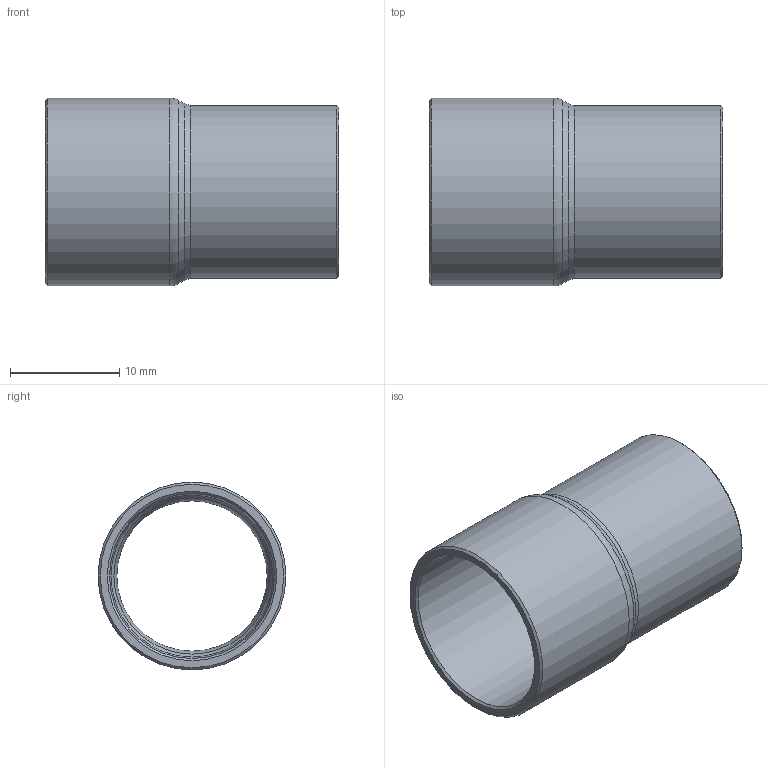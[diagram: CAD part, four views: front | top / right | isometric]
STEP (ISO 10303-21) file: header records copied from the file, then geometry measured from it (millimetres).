
FILE_DESCRIPTION((''),'2;1');
FILE_NAME('G:\SANHA-Ternat\Technik\Management\Bouwmaten + markeringen\z-maattekeningen 3D\29000s\29243IM5815_3d.stp','2017-08-07T11:35:28',('vdvijverd'),(''),'Autodesk Inventor 2009','Autodesk Inventor 2009','');
FILE_SCHEMA(('AUTOMOTIVE_DESIGN { 1 0 10303 214 1 1 1 1 }'));
Length unit declared in the file: millimetre
Products named in the file (1): 29243IM5815_3d
Bounding box: 26.9 x 17.22 x 17.22 mm (x, y, z)
Volume: 1373.7 mm3; surface area: 2702.8 mm2
Topology: 1 solids, 1 shells, 16 faces, 30 edges, 16 vertices
Faces by surface type: cone 6, cylinder 4, plane 2, torus 2, bspline 2
Full cylindrical faces by diameter (mm): 13.77 x1, 15.12 x1, 15.87 x1, 17.22 x1
Entity records: 434 total; most frequent: CARTESIAN_POINT 137, DIRECTION 62, ORIENTED_EDGE 32, EDGE_LOOP 32, AXIS2_PLACEMENT_3D 31, VERTEX_POINT 16, CIRCLE 16, EDGE_CURVE 16
